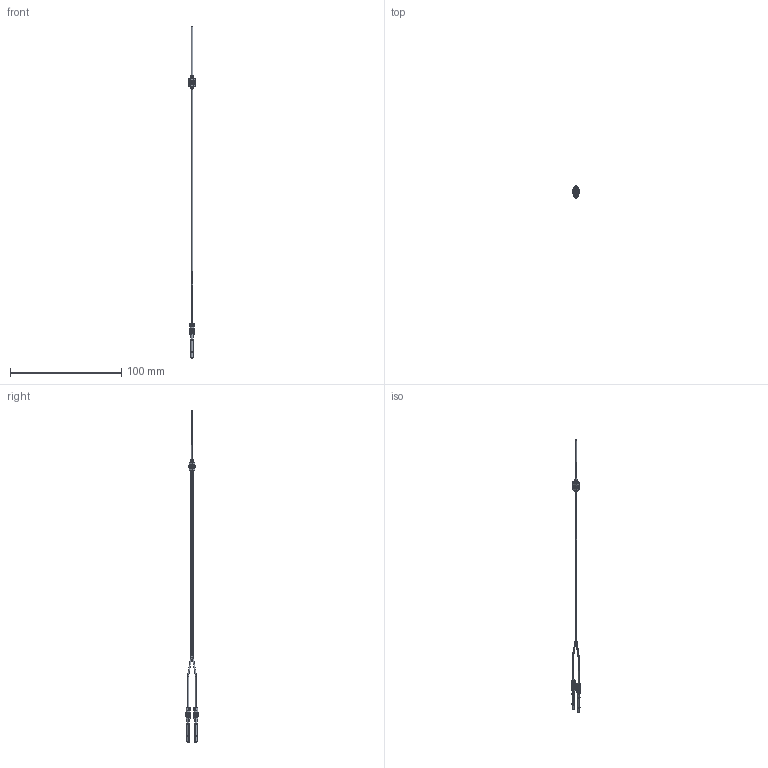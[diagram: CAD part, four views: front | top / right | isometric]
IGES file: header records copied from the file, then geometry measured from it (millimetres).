
Start section: SolidWorks IGES file using analytic representation for surfaces
Bounding box: 6.5 x 11 x 299.01 mm (x, y, z)
Surface area: 3040.6 mm2 (no closed solid volume)
Topology: 0 solids, 0 shells, 392 faces, 4491 edges, 4491 vertices
Faces by surface type: revolution 205, bspline 187
